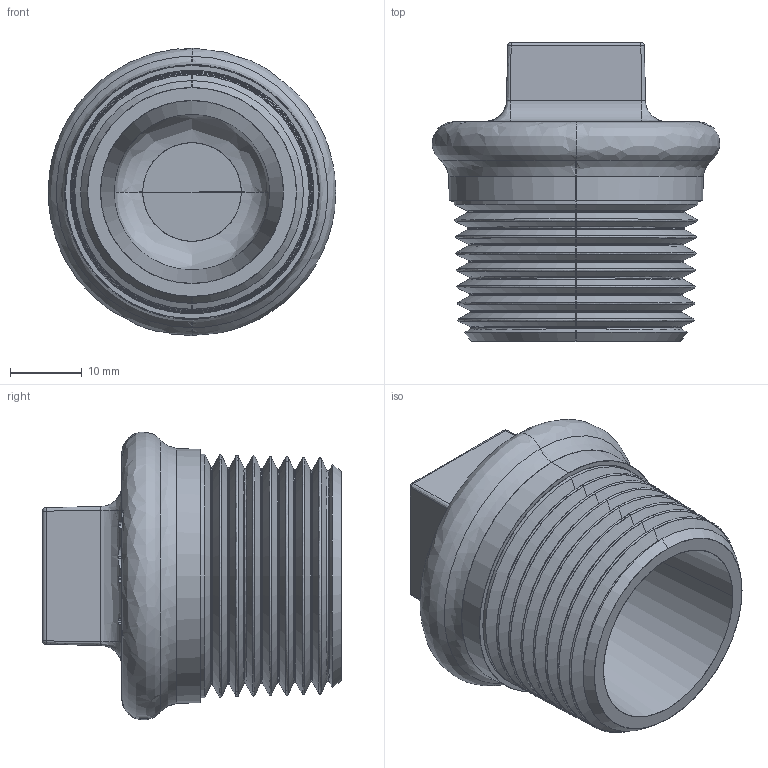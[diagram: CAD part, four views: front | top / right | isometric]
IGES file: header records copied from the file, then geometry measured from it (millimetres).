
Start section: SolidWorks IGES file using analytic representation for surfaces
Global section: file name: C:\Users\Joel Rosa\Desktop\Tubulação\12-03-OK\12-03-007.IGS; native system: SolidWorks 2011; preprocessor: SolidWorks 2011; author: Joel Rosa; date: 121203.234647; units: millimetre
Bounding box: 39.95 x 41.5 x 39.98 mm (x, y, z)
Surface area: 9077.8 mm2 (no closed solid volume)
Topology: 0 solids, 0 shells, 199 faces, 1759 edges, 1757 vertices
Faces by surface type: bspline 140, revolution 59
